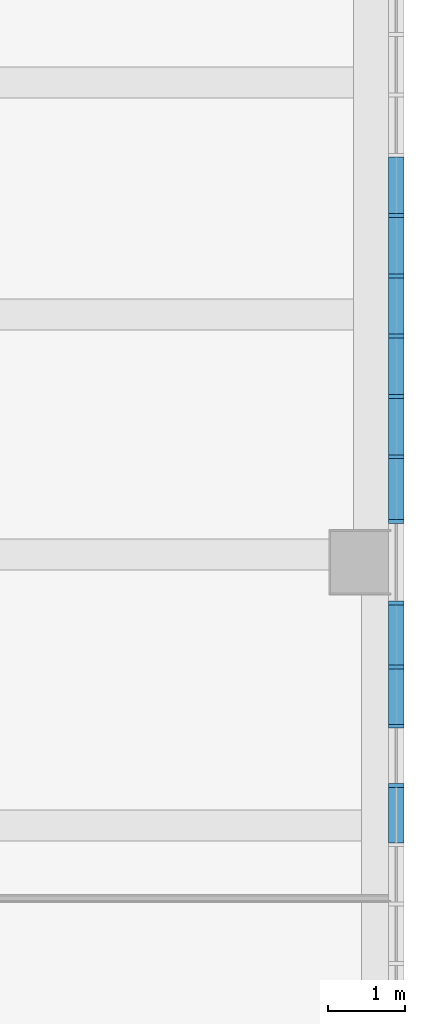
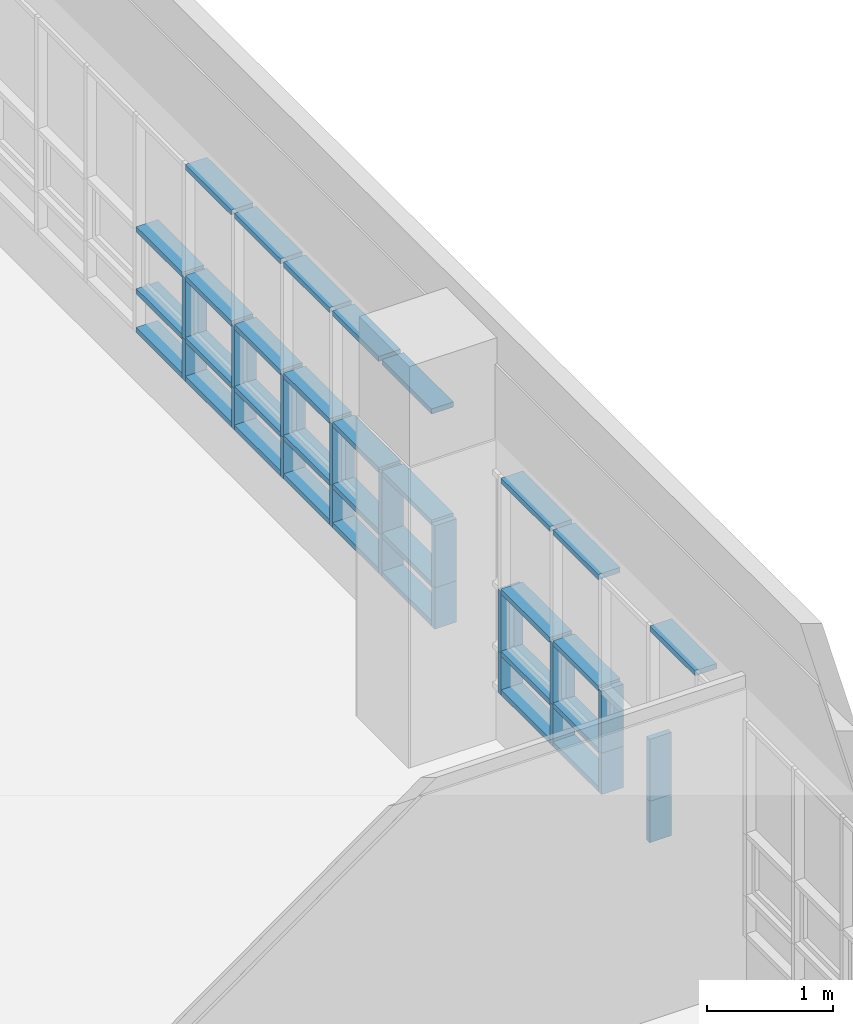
# One storey, part 21 of 81: 52 members, 1 element without a shape of its own.
"""IFC2X3 building model written with IfcOpenShell, lengths in millimetres."""

from ifc_helpers import new_model, entity, si_unit, converted_unit, derived_unit, direction, frame, origin, origin_2d_with_axis, place, context, subcontext, project, spatial, rectangle, extrude, source, transform, mapped, material, type_object, type_shapes, element, aggregate, save


model = new_model("IFC2X3")

# Units and contexts
model_context = context("Model", 3, precision=0.01, world=origin(), true_north=direction((6.123031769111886e-17, 1.0)))
body_context = subcontext(model_context, "Body", "Model", "MODEL_VIEW")
ifc_project = project(units=[si_unit("LENGTHUNIT", "METRE", prefix="MILLI"), si_unit("AREAUNIT", "SQUARE_METRE"), si_unit("VOLUMEUNIT", "CUBIC_METRE"), converted_unit("PLANEANGLEUNIT", "DEGREE", entity("IfcRatioMeasure", 0.017453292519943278), si_unit("PLANEANGLEUNIT", "RADIAN"), dimensions=[0, 0, 0, 0, 0, 0, 0]), si_unit("MASSUNIT", "GRAM", prefix="KILO"), derived_unit("MASSDENSITYUNIT", [(si_unit("MASSUNIT", "GRAM", prefix="KILO"), 1), (si_unit("LENGTHUNIT", "METRE"), -3)]), derived_unit("MOMENTOFINERTIAUNIT", [(si_unit("LENGTHUNIT", "METRE"), 4)]), si_unit("TIMEUNIT", "SECOND"), si_unit("FREQUENCYUNIT", "HERTZ"), si_unit("THERMODYNAMICTEMPERATUREUNIT", "DEGREE_CELSIUS"), derived_unit("THERMALTRANSMITTANCEUNIT", [(si_unit("MASSUNIT", "GRAM", prefix="KILO"), 1), (si_unit("THERMODYNAMICTEMPERATUREUNIT", "KELVIN"), -1), (si_unit("TIMEUNIT", "SECOND"), -3)]), derived_unit("VOLUMETRICFLOWRATEUNIT", [(si_unit("LENGTHUNIT", "METRE"), 3), (si_unit("TIMEUNIT", "SECOND"), -1)]), derived_unit("MASSFLOWRATEUNIT", [(si_unit("MASSUNIT", "GRAM", prefix="KILO"), 1), (si_unit("TIMEUNIT", "SECOND"), -1)]), derived_unit("ROTATIONALFREQUENCYUNIT", [(si_unit("TIMEUNIT", "SECOND"), -1)]), si_unit("ELECTRICCURRENTUNIT", "AMPERE"), si_unit("ELECTRICVOLTAGEUNIT", "VOLT"), si_unit("POWERUNIT", "WATT"), si_unit("FORCEUNIT", "NEWTON", prefix="KILO"), si_unit("ILLUMINANCEUNIT", "LUX"), si_unit("LUMINOUSFLUXUNIT", "LUMEN"), si_unit("LUMINOUSINTENSITYUNIT", "CANDELA"), derived_unit("USERDEFINED", [(si_unit("MASSUNIT", "GRAM", prefix="KILO"), -1), (si_unit("LENGTHUNIT", "METRE"), -2), (si_unit("TIMEUNIT", "SECOND"), 3), (si_unit("LUMINOUSFLUXUNIT", "LUMEN"), 1)]), derived_unit("SOUNDPOWERUNIT", [(si_unit("MASSUNIT", "GRAM", prefix="KILO"), 1), (si_unit("LENGTHUNIT", "METRE"), 2), (si_unit("TIMEUNIT", "SECOND"), -3)]), derived_unit("SOUNDPRESSUREUNIT", [(si_unit("MASSUNIT", "GRAM", prefix="KILO"), 1), (si_unit("LENGTHUNIT", "METRE"), -1), (si_unit("TIMEUNIT", "SECOND"), -2)]), derived_unit("LINEARVELOCITYUNIT", [(si_unit("LENGTHUNIT", "METRE"), 1), (si_unit("TIMEUNIT", "SECOND"), -1)]), si_unit("PRESSUREUNIT", "PASCAL"), derived_unit("USERDEFINED", [(si_unit("LENGTHUNIT", "METRE"), -2), (si_unit("MASSUNIT", "GRAM", prefix="KILO"), 1), (si_unit("TIMEUNIT", "SECOND"), -2)]), derived_unit("LINEARFORCEUNIT", [(si_unit("MASSUNIT", "GRAM", prefix="KILO"), 1), (si_unit("LENGTHUNIT", "METRE"), 1), (si_unit("TIMEUNIT", "SECOND"), -2), (si_unit("LENGTHUNIT", "METRE"), -1)]), derived_unit("PLANARFORCEUNIT", [(si_unit("MASSUNIT", "GRAM", prefix="KILO"), 1), (si_unit("LENGTHUNIT", "METRE"), 1), (si_unit("TIMEUNIT", "SECOND"), -2), (si_unit("LENGTHUNIT", "METRE"), -2)])], contexts=[model_context])

# Site, building, storey
site_placement = place(None, frame((-14167.972527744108, -657.2125860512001, 0.0)))
site = spatial("IfcSite", under=ifc_project, at=site_placement, Name="Default", CompositionType="ELEMENT")
building_placement = place(site_placement, origin())
building = spatial("IfcBuilding", under=site, at=building_placement, Name="Sample Building", CompositionType="ELEMENT")
storey_placement = place(building_placement, frame((0.0, 0.0, 13400.0)))
storey = spatial("IfcBuildingStorey", under=building, at=storey_placement, Name="지상 4층", CompositionType="ELEMENT", Elevation=13400.00000000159)

# Curtain wall, members
curtain_wall_type = type_object("IfcCurtainWallType", Name="커튼월:CW112-스테인리스 스틸 커튼월", PredefinedType="NOTDEFINED")
curtain_wall_placement = place(storey_placement, frame((0.0, 0.0, -13400.0)))
curtain_wall = element("IfcCurtainWall", 1, at=curtain_wall_placement, inside=storey, type_object=curtain_wall_type, Name="커튼월:CW112-스테인리스 스틸 커튼월", ObjectType="커튼월:CW112-스테인리스 스틸 커튼월")
ifc_material = material(Name="<Unnamed>")
member_type_1 = type_object("IfcMemberType", Name="직사각형 멀리언:CW200-직사각형 멀리언 50x200mm", PredefinedType="MULLION", material=ifc_material)
shared_shape_1 = source(origin(), body_context, "Body", "SweptSolid", [
    extrude(rectangle(XDim=200.0, YDim=50.0, at=origin_2d_with_axis()), frame((0.0, 0.0, -600.0), z_axis=(0.0, 0.0, 1.0), x_axis=(0.0, -1.0, 0.0)), (0.0, 0.0, 1.0), 600.0),
])
type_shapes(member_type_1, [shared_shape_1])
member_1_placement = place(curtain_wall_placement, frame((51517.96382893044, 18605.71229514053, 14400.0), z_axis=(0.0, 0.0, -1.0), x_axis=(0.0, -1.0, 0.0)))
member_1 = element("IfcMember", 2, at=member_1_placement, type_object=member_type_1, material=ifc_material, Name="직사각형 멀리언:CW200-직사각형 멀리언 50x200mm", ObjectType="직사각형 멀리언:CW200-직사각형 멀리언 50x200mm", context=body_context, shape_type="MappedRepresentation", body=[
    mapped(shared_shape_1, transform((0.0, 0.0, 0.0), scale=1.0)),
])
member_type_2 = type_object("IfcMemberType", Name="직사각형 멀리언:CW200-직사각형 멀리언 50x200mm", PredefinedType="MULLION", material=ifc_material)
shared_shape_2 = source(origin(), body_context, "Body", "SweptSolid", [
    extrude(rectangle(XDim=200.0, YDim=50.0, at=origin_2d_with_axis()), frame((0.0, 0.0, -600.0), z_axis=(0.0, 0.0, 1.0), x_axis=(0.0, -1.0, 0.0)), (0.0, 0.0, 1.0), 599.9999999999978),
])
type_shapes(member_type_2, [shared_shape_2])
member_2_placement = place(curtain_wall_placement, frame((51517.96382893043, 24436.712295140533, 14400.0), z_axis=(0.0, 0.0, -1.0), x_axis=(0.0, -1.0, 0.0)))
member_2 = element("IfcMember", 3, at=member_2_placement, type_object=member_type_2, material=ifc_material, Name="직사각형 멀리언:CW200-직사각형 멀리언 50x200mm", ObjectType="직사각형 멀리언:CW200-직사각형 멀리언 50x200mm", context=body_context, shape_type="MappedRepresentation", body=[
    mapped(shared_shape_2, transform((0.0, 0.0, 0.0), scale=1.0)),
])
member_3_placement = place(curtain_wall_placement, frame((51517.963828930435, 23657.71229514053, 14400.0), z_axis=(0.0, 0.0, -1.0), x_axis=(0.0, -1.0, 0.0)))
member_3 = element("IfcMember", 4, at=member_3_placement, type_object=member_type_2, material=ifc_material, Name="직사각형 멀리언:CW200-직사각형 멀리언 50x200mm", ObjectType="직사각형 멀리언:CW200-직사각형 멀리언 50x200mm", context=body_context, shape_type="MappedRepresentation", body=[
    mapped(shared_shape_2, transform((0.0, 0.0, 0.0), scale=1.0)),
])
member_4_placement = place(curtain_wall_placement, frame((51517.963828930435, 22878.71229514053, 14400.0), z_axis=(0.0, 0.0, -1.0), x_axis=(0.0, -1.0, 0.0)))
member_4 = element("IfcMember", 5, at=member_4_placement, type_object=member_type_2, material=ifc_material, Name="직사각형 멀리언:CW200-직사각형 멀리언 50x200mm", ObjectType="직사각형 멀리언:CW200-직사각형 멀리언 50x200mm", context=body_context, shape_type="MappedRepresentation", body=[
    mapped(shared_shape_2, transform((0.0, 0.0, 0.0), scale=1.0)),
])
member_5_placement = place(curtain_wall_placement, frame((51517.963828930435, 22099.71229514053, 14400.0), z_axis=(0.0, 0.0, -1.0), x_axis=(0.0, -1.0, 0.0)))
member_5 = element("IfcMember", 6, at=member_5_placement, type_object=member_type_2, material=ifc_material, Name="직사각형 멀리언:CW200-직사각형 멀리언 50x200mm", ObjectType="직사각형 멀리언:CW200-직사각형 멀리언 50x200mm", context=body_context, shape_type="MappedRepresentation", body=[
    mapped(shared_shape_2, transform((0.0, 0.0, 0.0), scale=1.0)),
])
member_6_placement = place(curtain_wall_placement, frame((51517.963828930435, 21320.71229514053, 14400.0), z_axis=(0.0, 0.0, -1.0), x_axis=(0.0, -1.0, 0.0)))
member_6 = element("IfcMember", 7, at=member_6_placement, type_object=member_type_2, material=ifc_material, Name="직사각형 멀리언:CW200-직사각형 멀리언 50x200mm", ObjectType="직사각형 멀리언:CW200-직사각형 멀리언 50x200mm", context=body_context, shape_type="MappedRepresentation", body=[
    mapped(shared_shape_2, transform((0.0, 0.0, 0.0), scale=1.0)),
])
member_7_placement = place(curtain_wall_placement, frame((51517.963828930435, 20481.71229514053, 14400.0), z_axis=(0.0, 0.0, -1.0), x_axis=(0.0, -1.0, 0.0)))
member_7 = element("IfcMember", 8, at=member_7_placement, type_object=member_type_2, material=ifc_material, Name="직사각형 멀리언:CW200-직사각형 멀리언 50x200mm", ObjectType="직사각형 멀리언:CW200-직사각형 멀리언 50x200mm", context=body_context, shape_type="MappedRepresentation", body=[
    mapped(shared_shape_2, transform((0.0, 0.0, 0.0), scale=1.0)),
])
member_8_placement = place(curtain_wall_placement, frame((51517.96382893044, 17839.71229514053, 14400.0), z_axis=(0.0, 0.0, -1.0), x_axis=(0.0, -1.0, 0.0)))
member_8 = element("IfcMember", 9, at=member_8_placement, type_object=member_type_2, material=ifc_material, Name="직사각형 멀리언:CW200-직사각형 멀리언 50x200mm", ObjectType="직사각형 멀리언:CW200-직사각형 멀리언 50x200mm", context=body_context, shape_type="MappedRepresentation", body=[
    mapped(shared_shape_2, transform((0.0, 0.0, 0.0), scale=1.0)),
])
member_9_placement = place(curtain_wall_placement, frame((51517.963828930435, 19431.71229514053, 14400.0), z_axis=(0.0, 0.0, -1.0), x_axis=(0.0, -1.0, 0.0)))
member_9 = element("IfcMember", 10, at=member_9_placement, type_object=member_type_2, material=ifc_material, Name="직사각형 멀리언:CW200-직사각형 멀리언 50x200mm", ObjectType="직사각형 멀리언:CW200-직사각형 멀리언 50x200mm", context=body_context, shape_type="MappedRepresentation", body=[
    mapped(shared_shape_2, transform((0.0, 0.0, 0.0), scale=1.0)),
])
member_10_placement = place(curtain_wall_placement, frame((51517.96382893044, 17073.71229514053, 14400.0), z_axis=(0.0, 0.0, -1.0), x_axis=(0.0, -1.0, 0.0)))
member_10 = element("IfcMember", 11, at=member_10_placement, type_object=member_type_2, material=ifc_material, Name="직사각형 멀리언:CW200-직사각형 멀리언 50x200mm", ObjectType="직사각형 멀리언:CW200-직사각형 멀리언 50x200mm", context=body_context, shape_type="MappedRepresentation", body=[
    mapped(shared_shape_2, transform((0.0, 0.0, 0.0), scale=1.0)),
])
member_type_3 = type_object("IfcMemberType", Name="직사각형 멀리언:CW200-직사각형 멀리언 50x200mm", PredefinedType="MULLION", material=ifc_material)
shared_shape_3 = source(origin(), body_context, "Body", "SweptSolid", [
    extrude(rectangle(XDim=200.0, YDim=50.0, at=origin_2d_with_axis()), frame((-25.0, 0.0, -729.0), z_axis=(0.0, 0.0, 1.0), x_axis=(0.0, -1.0, 0.0)), (0.0, 0.0, 1.0), 729.000000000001),
])
type_shapes(member_type_3, [shared_shape_3])
member_11_placement = place(curtain_wall_placement, frame((51517.96382893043, 25190.712295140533, 14000.0), z_axis=(0.0, 1.0, 0.0), x_axis=(0.0, 0.0, -1.0)))
member_11 = element("IfcMember", 12, at=member_11_placement, type_object=member_type_3, material=ifc_material, Name="직사각형 멀리언:CW200-직사각형 멀리언 50x200mm", ObjectType="직사각형 멀리언:CW200-직사각형 멀리언 50x200mm", context=body_context, shape_type="MappedRepresentation", body=[
    mapped(shared_shape_3, transform((0.0, 0.0, 0.0), scale=1.0)),
])
member_12_placement = place(curtain_wall_placement, frame((51517.96382893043, 24411.712295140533, 14000.0), z_axis=(0.0, 1.0, 0.0), x_axis=(0.0, 0.0, -1.0)))
member_12 = element("IfcMember", 13, at=member_12_placement, type_object=member_type_3, material=ifc_material, Name="직사각형 멀리언:CW200-직사각형 멀리언 50x200mm", ObjectType="직사각형 멀리언:CW200-직사각형 멀리언 50x200mm", context=body_context, shape_type="MappedRepresentation", body=[
    mapped(shared_shape_3, transform((0.0, 0.0, 0.0), scale=1.0)),
])
member_13_placement = place(curtain_wall_placement, frame((51517.963828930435, 23632.712295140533, 14000.0), z_axis=(0.0, 1.0, 0.0), x_axis=(0.0, 0.0, -1.0)))
member_13 = element("IfcMember", 14, at=member_13_placement, type_object=member_type_3, material=ifc_material, Name="직사각형 멀리언:CW200-직사각형 멀리언 50x200mm", ObjectType="직사각형 멀리언:CW200-직사각형 멀리언 50x200mm", context=body_context, shape_type="MappedRepresentation", body=[
    mapped(shared_shape_3, transform((0.0, 0.0, 0.0), scale=1.0)),
])
member_14_placement = place(curtain_wall_placement, frame((51517.963828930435, 22853.712295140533, 14000.0), z_axis=(0.0, 1.0, 0.0), x_axis=(0.0, 0.0, -1.0)))
member_14 = element("IfcMember", 15, at=member_14_placement, type_object=member_type_3, material=ifc_material, Name="직사각형 멀리언:CW200-직사각형 멀리언 50x200mm", ObjectType="직사각형 멀리언:CW200-직사각형 멀리언 50x200mm", context=body_context, shape_type="MappedRepresentation", body=[
    mapped(shared_shape_3, transform((0.0, 0.0, 0.0), scale=1.0)),
])
member_15_placement = place(curtain_wall_placement, frame((51517.963828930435, 22074.712295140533, 14000.0), z_axis=(0.0, 1.0, 0.0), x_axis=(0.0, 0.0, -1.0)))
member_15 = element("IfcMember", 16, at=member_15_placement, type_object=member_type_3, material=ifc_material, Name="직사각형 멀리언:CW200-직사각형 멀리언 50x200mm", ObjectType="직사각형 멀리언:CW200-직사각형 멀리언 50x200mm", context=body_context, shape_type="MappedRepresentation", body=[
    mapped(shared_shape_3, transform((0.0, 0.0, 0.0), scale=1.0)),
])
member_type_4 = type_object("IfcMemberType", Name="직사각형 멀리언:CW200-직사각형 멀리언 50x200mm", PredefinedType="MULLION", material=ifc_material)
shared_shape_4 = source(origin(), body_context, "Body", "SweptSolid", [
    extrude(rectangle(XDim=200.0, YDim=50.0, at=origin_2d_with_axis()), frame((0.0, 0.0, -729.0), z_axis=(0.0, 0.0, 1.0), x_axis=(0.0, -1.0, 0.0)), (0.0, 0.0, 1.0), 728.9999999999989),
])
type_shapes(member_type_4, [shared_shape_4])
member_16_placement = place(curtain_wall_placement, frame((51517.96382893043, 24461.71229514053, 14400.0), z_axis=(0.0, -1.0, 0.0), x_axis=(0.0, 0.0, 1.0)))
member_16 = element("IfcMember", 17, at=member_16_placement, type_object=member_type_4, material=ifc_material, Name="직사각형 멀리언:CW200-직사각형 멀리언 50x200mm", ObjectType="직사각형 멀리언:CW200-직사각형 멀리언 50x200mm", context=body_context, shape_type="MappedRepresentation", body=[
    mapped(shared_shape_4, transform((0.0, 0.0, 0.0), scale=1.0)),
])
member_17_placement = place(curtain_wall_placement, frame((51517.96382893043, 24461.71229514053, 15000.0), z_axis=(0.0, -1.0, 0.0), x_axis=(0.0, 0.0, 1.0)))
member_17 = element("IfcMember", 18, at=member_17_placement, type_object=member_type_4, material=ifc_material, Name="직사각형 멀리언:CW200-직사각형 멀리언 50x200mm", ObjectType="직사각형 멀리언:CW200-직사각형 멀리언 50x200mm", context=body_context, shape_type="MappedRepresentation", body=[
    mapped(shared_shape_4, transform((0.0, 0.0, 0.0), scale=1.0)),
])
member_18_placement = place(curtain_wall_placement, frame((51517.963828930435, 23682.71229514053, 14400.0), z_axis=(0.0, -1.0, 0.0), x_axis=(0.0, 0.0, 1.0)))
member_18 = element("IfcMember", 19, at=member_18_placement, type_object=member_type_4, material=ifc_material, Name="직사각형 멀리언:CW200-직사각형 멀리언 50x200mm", ObjectType="직사각형 멀리언:CW200-직사각형 멀리언 50x200mm", context=body_context, shape_type="MappedRepresentation", body=[
    mapped(shared_shape_4, transform((0.0, 0.0, 0.0), scale=1.0)),
])
member_19_placement = place(curtain_wall_placement, frame((51517.963828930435, 23682.71229514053, 15000.0), z_axis=(0.0, -1.0, 0.0), x_axis=(0.0, 0.0, 1.0)))
member_19 = element("IfcMember", 20, at=member_19_placement, type_object=member_type_4, material=ifc_material, Name="직사각형 멀리언:CW200-직사각형 멀리언 50x200mm", ObjectType="직사각형 멀리언:CW200-직사각형 멀리언 50x200mm", context=body_context, shape_type="MappedRepresentation", body=[
    mapped(shared_shape_4, transform((0.0, 0.0, 0.0), scale=1.0)),
])
member_20_placement = place(curtain_wall_placement, frame((51517.963828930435, 22903.71229514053, 14400.0), z_axis=(0.0, -1.0, 0.0), x_axis=(0.0, 0.0, 1.0)))
member_20 = element("IfcMember", 21, at=member_20_placement, type_object=member_type_4, material=ifc_material, Name="직사각형 멀리언:CW200-직사각형 멀리언 50x200mm", ObjectType="직사각형 멀리언:CW200-직사각형 멀리언 50x200mm", context=body_context, shape_type="MappedRepresentation", body=[
    mapped(shared_shape_4, transform((0.0, 0.0, 0.0), scale=1.0)),
])
member_21_placement = place(curtain_wall_placement, frame((51517.963828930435, 22903.71229514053, 15000.0), z_axis=(0.0, -1.0, 0.0), x_axis=(0.0, 0.0, 1.0)))
member_21 = element("IfcMember", 22, at=member_21_placement, type_object=member_type_4, material=ifc_material, Name="직사각형 멀리언:CW200-직사각형 멀리언 50x200mm", ObjectType="직사각형 멀리언:CW200-직사각형 멀리언 50x200mm", context=body_context, shape_type="MappedRepresentation", body=[
    mapped(shared_shape_4, transform((0.0, 0.0, 0.0), scale=1.0)),
])
member_22_placement = place(curtain_wall_placement, frame((51517.963828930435, 22124.71229514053, 14400.0), z_axis=(0.0, -1.0, 0.0), x_axis=(0.0, 0.0, 1.0)))
member_22 = element("IfcMember", 23, at=member_22_placement, type_object=member_type_4, material=ifc_material, Name="직사각형 멀리언:CW200-직사각형 멀리언 50x200mm", ObjectType="직사각형 멀리언:CW200-직사각형 멀리언 50x200mm", context=body_context, shape_type="MappedRepresentation", body=[
    mapped(shared_shape_4, transform((0.0, 0.0, 0.0), scale=1.0)),
])
member_23_placement = place(curtain_wall_placement, frame((51517.963828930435, 22124.71229514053, 15000.0), z_axis=(0.0, -1.0, 0.0), x_axis=(0.0, 0.0, 1.0)))
member_23 = element("IfcMember", 24, at=member_23_placement, type_object=member_type_4, material=ifc_material, Name="직사각형 멀리언:CW200-직사각형 멀리언 50x200mm", ObjectType="직사각형 멀리언:CW200-직사각형 멀리언 50x200mm", context=body_context, shape_type="MappedRepresentation", body=[
    mapped(shared_shape_4, transform((0.0, 0.0, 0.0), scale=1.0)),
])
member_24_placement = place(curtain_wall_placement, frame((51517.963828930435, 21345.71229514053, 14400.0), z_axis=(0.0, -1.0, 0.0), x_axis=(0.0, 0.0, 1.0)))
member_24 = element("IfcMember", 25, at=member_24_placement, type_object=member_type_4, material=ifc_material, Name="직사각형 멀리언:CW200-직사각형 멀리언 50x200mm", ObjectType="직사각형 멀리언:CW200-직사각형 멀리언 50x200mm", context=body_context, shape_type="MappedRepresentation", body=[
    mapped(shared_shape_4, transform((0.0, 0.0, 0.0), scale=1.0)),
])
member_25_placement = place(curtain_wall_placement, frame((51517.963828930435, 21345.71229514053, 15000.0), z_axis=(0.0, -1.0, 0.0), x_axis=(0.0, 0.0, 1.0)))
member_25 = element("IfcMember", 26, at=member_25_placement, type_object=member_type_4, material=ifc_material, Name="직사각형 멀리언:CW200-직사각형 멀리언 50x200mm", ObjectType="직사각형 멀리언:CW200-직사각형 멀리언 50x200mm", context=body_context, shape_type="MappedRepresentation", body=[
    mapped(shared_shape_4, transform((0.0, 0.0, 0.0), scale=1.0)),
])
member_type_5 = type_object("IfcMemberType", Name="직사각형 멀리언:CW200-직사각형 멀리언 50x200mm", PredefinedType="MULLION", material=ifc_material)
shared_shape_5 = source(origin(), body_context, "Body", "SweptSolid", [
    extrude(rectangle(XDim=200.0, YDim=50.0, at=origin_2d_with_axis()), frame((-25.0, 0.0, -729.0), z_axis=(0.0, 0.0, 1.0), x_axis=(0.0, -1.0, 0.0)), (0.0, 0.0, 1.0), 728.9999999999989),
])
type_shapes(member_type_5, [shared_shape_5])
member_26_placement = place(curtain_wall_placement, frame((51517.963828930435, 23682.712295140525, 16100.0), z_axis=(0.0, -1.0, 0.0), x_axis=(0.0, 0.0, 1.0)))
member_26 = element("IfcMember", 27, at=member_26_placement, type_object=member_type_5, material=ifc_material, Name="직사각형 멀리언:CW200-직사각형 멀리언 50x200mm", ObjectType="직사각형 멀리언:CW200-직사각형 멀리언 50x200mm", context=body_context, shape_type="MappedRepresentation", body=[
    mapped(shared_shape_5, transform((0.0, 0.0, 0.0), scale=1.0)),
])
member_27_placement = place(curtain_wall_placement, frame((51517.963828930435, 22903.71229514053, 16100.0), z_axis=(0.0, -1.0, 0.0), x_axis=(0.0, 0.0, 1.0)))
member_27 = element("IfcMember", 28, at=member_27_placement, type_object=member_type_5, material=ifc_material, Name="직사각형 멀리언:CW200-직사각형 멀리언 50x200mm", ObjectType="직사각형 멀리언:CW200-직사각형 멀리언 50x200mm", context=body_context, shape_type="MappedRepresentation", body=[
    mapped(shared_shape_5, transform((0.0, 0.0, 0.0), scale=1.0)),
])
member_28_placement = place(curtain_wall_placement, frame((51517.963828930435, 22124.712295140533, 16100.0), z_axis=(0.0, -1.0, 0.0), x_axis=(0.0, 0.0, 1.0)))
member_28 = element("IfcMember", 29, at=member_28_placement, type_object=member_type_5, material=ifc_material, Name="직사각형 멀리언:CW200-직사각형 멀리언 50x200mm", ObjectType="직사각형 멀리언:CW200-직사각형 멀리언 50x200mm", context=body_context, shape_type="MappedRepresentation", body=[
    mapped(shared_shape_5, transform((0.0, 0.0, 0.0), scale=1.0)),
])
member_29_placement = place(curtain_wall_placement, frame((51517.963828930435, 21345.71229514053, 16100.0), z_axis=(0.0, -1.0, 0.0), x_axis=(0.0, 0.0, 1.0)))
member_29 = element("IfcMember", 30, at=member_29_placement, type_object=member_type_5, material=ifc_material, Name="직사각형 멀리언:CW200-직사각형 멀리언 50x200mm", ObjectType="직사각형 멀리언:CW200-직사각형 멀리언 50x200mm", context=body_context, shape_type="MappedRepresentation", body=[
    mapped(shared_shape_5, transform((0.0, 0.0, 0.0), scale=1.0)),
])
member_type_6 = type_object("IfcMemberType", Name="직사각형 멀리언:CW200-직사각형 멀리언 50x200mm", PredefinedType="MULLION", material=ifc_material)
shared_shape_6 = source(origin(), body_context, "Body", "SweptSolid", [
    extrude(rectangle(XDim=200.0, YDim=50.0, at=origin_2d_with_axis()), frame((-25.0, 0.0, -789.0), z_axis=(0.0, 0.0, 1.0), x_axis=(0.0, -1.0, 0.0)), (0.0, 0.0, 1.0), 789.0000000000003),
])
type_shapes(member_type_6, [shared_shape_6])
member_30_placement = place(curtain_wall_placement, frame((51517.963828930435, 21295.71229514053, 14000.0), z_axis=(0.0, 1.0, 0.0), x_axis=(0.0, 0.0, -1.0)))
member_30 = element("IfcMember", 31, at=member_30_placement, type_object=member_type_6, material=ifc_material, Name="직사각형 멀리언:CW200-직사각형 멀리언 50x200mm", ObjectType="직사각형 멀리언:CW200-직사각형 멀리언 50x200mm", context=body_context, shape_type="MappedRepresentation", body=[
    mapped(shared_shape_6, transform((0.0, 0.0, 0.0), scale=1.0)),
])
member_type_7 = type_object("IfcMemberType", Name="직사각형 멀리언:CW200-직사각형 멀리언 50x200mm", PredefinedType="MULLION", material=ifc_material)
shared_shape_7 = source(origin(), body_context, "Body", "SweptSolid", [
    extrude(rectangle(XDim=200.0, YDim=50.0, at=origin_2d_with_axis()), frame((0.0, 0.0, -789.0), z_axis=(0.0, 0.0, 1.0), x_axis=(0.0, -1.0, 0.0)), (0.0, 0.0, 1.0), 788.9999999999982),
])
type_shapes(member_type_7, [shared_shape_7])
member_31_placement = place(curtain_wall_placement, frame((51517.963828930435, 20506.71229514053, 14400.0), z_axis=(0.0, -1.0, 0.0), x_axis=(0.0, 0.0, 1.0)))
member_31 = element("IfcMember", 32, at=member_31_placement, type_object=member_type_7, material=ifc_material, Name="직사각형 멀리언:CW200-직사각형 멀리언 50x200mm", ObjectType="직사각형 멀리언:CW200-직사각형 멀리언 50x200mm", context=body_context, shape_type="MappedRepresentation", body=[
    mapped(shared_shape_7, transform((0.0, 0.0, 0.0), scale=1.0)),
])
member_32_placement = place(curtain_wall_placement, frame((51517.963828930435, 20506.71229514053, 15000.0), z_axis=(0.0, -1.0, 0.0), x_axis=(0.0, 0.0, 1.0)))
member_32 = element("IfcMember", 33, at=member_32_placement, type_object=member_type_7, material=ifc_material, Name="직사각형 멀리언:CW200-직사각형 멀리언 50x200mm", ObjectType="직사각형 멀리언:CW200-직사각형 멀리언 50x200mm", context=body_context, shape_type="MappedRepresentation", body=[
    mapped(shared_shape_7, transform((0.0, 0.0, 0.0), scale=1.0)),
])
member_type_8 = type_object("IfcMemberType", Name="직사각형 멀리언:CW200-직사각형 멀리언 50x200mm", PredefinedType="MULLION", material=ifc_material)
shared_shape_8 = source(origin(), body_context, "Body", "SweptSolid", [
    extrude(rectangle(XDim=200.0, YDim=50.0, at=origin_2d_with_axis()), frame((-25.0, 0.0, -789.0), z_axis=(0.0, 0.0, 1.0), x_axis=(0.0, -1.0, 0.0)), (0.0, 0.0, 1.0), 788.9999999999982),
])
type_shapes(member_type_8, [shared_shape_8])
member_33_placement = place(curtain_wall_placement, frame((51517.963828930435, 20506.71229514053, 16100.0), z_axis=(0.0, -1.0, 0.0), x_axis=(0.0, 0.0, 1.0)))
member_33 = element("IfcMember", 34, at=member_33_placement, type_object=member_type_8, material=ifc_material, Name="직사각형 멀리언:CW200-직사각형 멀리언 50x200mm", ObjectType="직사각형 멀리언:CW200-직사각형 멀리언 50x200mm", context=body_context, shape_type="MappedRepresentation", body=[
    mapped(shared_shape_8, transform((0.0, 0.0, 0.0), scale=1.0)),
])
member_type_9 = type_object("IfcMemberType", Name="직사각형 멀리언:CW200-직사각형 멀리언 50x200mm", PredefinedType="MULLION", material=ifc_material)
shared_shape_9 = source(origin(), body_context, "Body", "SweptSolid", [
    extrude(rectangle(XDim=200.0, YDim=50.0, at=origin_2d_with_axis()), frame((-25.0, 0.0, -716.0), z_axis=(0.0, 0.0, 1.0), x_axis=(0.0, -1.0, 0.0)), (0.0, 0.0, 1.0), 715.9999999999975),
])
type_shapes(member_type_9, [shared_shape_9])
member_34_placement = place(curtain_wall_placement, frame((51517.96382893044, 17864.71229514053, 16100.0), z_axis=(0.0, -1.0, 0.0), x_axis=(0.0, 0.0, 1.0)))
member_34 = element("IfcMember", 35, at=member_34_placement, type_object=member_type_9, material=ifc_material, Name="직사각형 멀리언:CW200-직사각형 멀리언 50x200mm", ObjectType="직사각형 멀리언:CW200-직사각형 멀리언 50x200mm", context=body_context, shape_type="MappedRepresentation", body=[
    mapped(shared_shape_9, transform((0.0, 0.0, 0.0), scale=1.0)),
])
member_35_placement = place(curtain_wall_placement, frame((51517.96382893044, 16332.71229514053, 16100.0), z_axis=(0.0, -1.0, 0.0), x_axis=(0.0, 0.0, 1.0)))
member_35 = element("IfcMember", 36, at=member_35_placement, type_object=member_type_9, material=ifc_material, Name="직사각형 멀리언:CW200-직사각형 멀리언 50x200mm", ObjectType="직사각형 멀리언:CW200-직사각형 멀리언 50x200mm", context=body_context, shape_type="MappedRepresentation", body=[
    mapped(shared_shape_9, transform((0.0, 0.0, 0.0), scale=1.0)),
])
member_type_10 = type_object("IfcMemberType", Name="직사각형 멀리언:CW200-직사각형 멀리언 50x200mm", PredefinedType="MULLION", material=ifc_material)
shared_shape_10 = source(origin(), body_context, "Body", "SweptSolid", [
    extrude(rectangle(XDim=200.0, YDim=50.0, at=origin_2d_with_axis()), frame((-25.0, 0.0, -776.0), z_axis=(0.0, 0.0, 1.0), x_axis=(0.0, -1.0, 0.0)), (0.0, 0.0, 1.0), 776.0000000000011),
])
type_shapes(member_type_10, [shared_shape_10])
member_36_placement = place(curtain_wall_placement, frame((51517.963828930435, 19406.712295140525, 14000.0), z_axis=(0.0, 1.0, 0.0), x_axis=(0.0, 0.0, -1.0)))
member_36 = element("IfcMember", 37, at=member_36_placement, type_object=member_type_10, material=ifc_material, Name="직사각형 멀리언:CW200-직사각형 멀리언 50x200mm", ObjectType="직사각형 멀리언:CW200-직사각형 멀리언 50x200mm", context=body_context, shape_type="MappedRepresentation", body=[
    mapped(shared_shape_10, transform((0.0, 0.0, 0.0), scale=1.0)),
])
member_type_11 = type_object("IfcMemberType", Name="직사각형 멀리언:CW200-직사각형 멀리언 50x200mm", PredefinedType="MULLION", material=ifc_material)
shared_shape_11 = source(origin(), body_context, "Body", "SweptSolid", [
    extrude(rectangle(XDim=200.0, YDim=50.0, at=origin_2d_with_axis()), frame((0.0, 0.0, -776.0), z_axis=(0.0, 0.0, 1.0), x_axis=(0.0, -1.0, 0.0)), (0.0, 0.0, 1.0), 775.999999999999),
])
type_shapes(member_type_11, [shared_shape_11])
member_37_placement = place(curtain_wall_placement, frame((51517.96382893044, 18630.71229514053, 14400.0), z_axis=(0.0, -1.0, 0.0), x_axis=(0.0, 0.0, 1.0)))
member_37 = element("IfcMember", 38, at=member_37_placement, type_object=member_type_11, material=ifc_material, Name="직사각형 멀리언:CW200-직사각형 멀리언 50x200mm", ObjectType="직사각형 멀리언:CW200-직사각형 멀리언 50x200mm", context=body_context, shape_type="MappedRepresentation", body=[
    mapped(shared_shape_11, transform((0.0, 0.0, 0.0), scale=1.0)),
])
member_38_placement = place(curtain_wall_placement, frame((51517.96382893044, 18630.71229514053, 15000.0), z_axis=(0.0, -1.0, 0.0), x_axis=(0.0, 0.0, 1.0)))
member_38 = element("IfcMember", 39, at=member_38_placement, type_object=member_type_11, material=ifc_material, Name="직사각형 멀리언:CW200-직사각형 멀리언 50x200mm", ObjectType="직사각형 멀리언:CW200-직사각형 멀리언 50x200mm", context=body_context, shape_type="MappedRepresentation", body=[
    mapped(shared_shape_11, transform((0.0, 0.0, 0.0), scale=1.0)),
])
member_type_12 = type_object("IfcMemberType", Name="직사각형 멀리언:CW200-직사각형 멀리언 50x200mm", PredefinedType="MULLION", material=ifc_material)
shared_shape_12 = source(origin(), body_context, "Body", "SweptSolid", [
    extrude(rectangle(XDim=200.0, YDim=50.0, at=origin_2d_with_axis()), frame((-25.0, 0.0, -716.0), z_axis=(0.0, 0.0, 1.0), x_axis=(0.0, -1.0, 0.0)), (0.0, 0.0, 1.0), 715.9999999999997),
])
type_shapes(member_type_12, [shared_shape_12])
member_39_placement = place(curtain_wall_placement, frame((51517.96382893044, 18580.712295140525, 14000.0), z_axis=(0.0, 1.0, 0.0), x_axis=(0.0, 0.0, -1.0)))
member_39 = element("IfcMember", 40, at=member_39_placement, type_object=member_type_12, material=ifc_material, Name="직사각형 멀리언:CW200-직사각형 멀리언 50x200mm", ObjectType="직사각형 멀리언:CW200-직사각형 멀리언 50x200mm", context=body_context, shape_type="MappedRepresentation", body=[
    mapped(shared_shape_12, transform((0.0, 0.0, 0.0), scale=1.0)),
])
member_type_13 = type_object("IfcMemberType", Name="직사각형 멀리언:CW200-직사각형 멀리언 50x200mm", PredefinedType="MULLION", material=ifc_material)
shared_shape_13 = source(origin(), body_context, "Body", "SweptSolid", [
    extrude(rectangle(XDim=200.0, YDim=50.0, at=origin_2d_with_axis()), frame((0.0, 0.0, -716.0), z_axis=(0.0, 0.0, 1.0), x_axis=(0.0, -1.0, 0.0)), (0.0, 0.0, 1.0), 715.9999999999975),
])
type_shapes(member_type_13, [shared_shape_13])
member_40_placement = place(curtain_wall_placement, frame((51517.96382893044, 17864.71229514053, 14400.0), z_axis=(0.0, -1.0, 0.0), x_axis=(0.0, 0.0, 1.0)))
member_40 = element("IfcMember", 41, at=member_40_placement, type_object=member_type_13, material=ifc_material, Name="직사각형 멀리언:CW200-직사각형 멀리언 50x200mm", ObjectType="직사각형 멀리언:CW200-직사각형 멀리언 50x200mm", context=body_context, shape_type="MappedRepresentation", body=[
    mapped(shared_shape_13, transform((0.0, 0.0, 0.0), scale=1.0)),
])
member_41_placement = place(curtain_wall_placement, frame((51517.96382893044, 17864.71229514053, 15000.0), z_axis=(0.0, -1.0, 0.0), x_axis=(0.0, 0.0, 1.0)))
member_41 = element("IfcMember", 42, at=member_41_placement, type_object=member_type_13, material=ifc_material, Name="직사각형 멀리언:CW200-직사각형 멀리언 50x200mm", ObjectType="직사각형 멀리언:CW200-직사각형 멀리언 50x200mm", context=body_context, shape_type="MappedRepresentation", body=[
    mapped(shared_shape_13, transform((0.0, 0.0, 0.0), scale=1.0)),
])
member_type_14 = type_object("IfcMemberType", Name="직사각형 멀리언:CW200-직사각형 멀리언 50x200mm", PredefinedType="MULLION", material=ifc_material)
shared_shape_14 = source(origin(), body_context, "Body", "SweptSolid", [
    extrude(rectangle(XDim=200.0, YDim=50.0, at=origin_2d_with_axis()), frame((-25.0, 0.0, -776.0), z_axis=(0.0, 0.0, 1.0), x_axis=(0.0, -1.0, 0.0)), (0.0, 0.0, 1.0), 775.999999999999),
])
type_shapes(member_type_14, [shared_shape_14])
member_42_placement = place(curtain_wall_placement, frame((51517.96382893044, 18630.71229514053, 16100.0), z_axis=(0.0, -1.0, 0.0), x_axis=(0.0, 0.0, 1.0)))
member_42 = element("IfcMember", 43, at=member_42_placement, type_object=member_type_14, material=ifc_material, Name="직사각형 멀리언:CW200-직사각형 멀리언 50x200mm", ObjectType="직사각형 멀리언:CW200-직사각형 멀리언 50x200mm", context=body_context, shape_type="MappedRepresentation", body=[
    mapped(shared_shape_14, transform((0.0, 0.0, 0.0), scale=1.0)),
])
member_type_15 = type_object("IfcMemberType", Name="직사각형 멀리언:CW200-직사각형 멀리언 50x200mm", PredefinedType="MULLION", material=ifc_material)
shared_shape_15 = source(origin(), body_context, "Body", "SweptSolid", [
    extrude(rectangle(XDim=200.0, YDim=50.0, at=origin_2d_with_axis()), frame((0.0, 0.0, -400.0), z_axis=(0.0, 0.0, 1.0), x_axis=(0.0, -1.0, 0.0)), (0.0, 0.0, 1.0), 399.9999999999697),
])
type_shapes(member_type_15, [shared_shape_15])
member_43_placement = place(curtain_wall_placement, frame((51517.96382893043, 24436.712295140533, 14000.0), z_axis=(0.0, 0.0, -1.0), x_axis=(0.0, -1.0, 0.0)))
member_43 = element("IfcMember", 44, at=member_43_placement, type_object=member_type_15, material=ifc_material, Name="직사각형 멀리언:CW200-직사각형 멀리언 50x200mm", ObjectType="직사각형 멀리언:CW200-직사각형 멀리언 50x200mm", context=body_context, shape_type="MappedRepresentation", body=[
    mapped(shared_shape_15, transform((0.0, 0.0, 0.0), scale=1.0)),
])
member_44_placement = place(curtain_wall_placement, frame((51517.963828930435, 23657.71229514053, 14000.0), z_axis=(0.0, 0.0, -1.0), x_axis=(0.0, -1.0, 0.0)))
member_44 = element("IfcMember", 45, at=member_44_placement, type_object=member_type_15, material=ifc_material, Name="직사각형 멀리언:CW200-직사각형 멀리언 50x200mm", ObjectType="직사각형 멀리언:CW200-직사각형 멀리언 50x200mm", context=body_context, shape_type="MappedRepresentation", body=[
    mapped(shared_shape_15, transform((0.0, 0.0, 0.0), scale=1.0)),
])
member_45_placement = place(curtain_wall_placement, frame((51517.963828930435, 22878.71229514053, 14000.0), z_axis=(0.0, 0.0, -1.0), x_axis=(0.0, -1.0, 0.0)))
member_45 = element("IfcMember", 46, at=member_45_placement, type_object=member_type_15, material=ifc_material, Name="직사각형 멀리언:CW200-직사각형 멀리언 50x200mm", ObjectType="직사각형 멀리언:CW200-직사각형 멀리언 50x200mm", context=body_context, shape_type="MappedRepresentation", body=[
    mapped(shared_shape_15, transform((0.0, 0.0, 0.0), scale=1.0)),
])
member_46_placement = place(curtain_wall_placement, frame((51517.963828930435, 22099.71229514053, 14000.0), z_axis=(0.0, 0.0, -1.0), x_axis=(0.0, -1.0, 0.0)))
member_46 = element("IfcMember", 47, at=member_46_placement, type_object=member_type_15, material=ifc_material, Name="직사각형 멀리언:CW200-직사각형 멀리언 50x200mm", ObjectType="직사각형 멀리언:CW200-직사각형 멀리언 50x200mm", context=body_context, shape_type="MappedRepresentation", body=[
    mapped(shared_shape_15, transform((0.0, 0.0, 0.0), scale=1.0)),
])
member_47_placement = place(curtain_wall_placement, frame((51517.963828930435, 21320.71229514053, 14000.0), z_axis=(0.0, 0.0, -1.0), x_axis=(0.0, -1.0, 0.0)))
member_47 = element("IfcMember", 48, at=member_47_placement, type_object=member_type_15, material=ifc_material, Name="직사각형 멀리언:CW200-직사각형 멀리언 50x200mm", ObjectType="직사각형 멀리언:CW200-직사각형 멀리언 50x200mm", context=body_context, shape_type="MappedRepresentation", body=[
    mapped(shared_shape_15, transform((0.0, 0.0, 0.0), scale=1.0)),
])
member_48_placement = place(curtain_wall_placement, frame((51517.963828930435, 20481.71229514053, 14000.0), z_axis=(0.0, 0.0, -1.0), x_axis=(0.0, -1.0, 0.0)))
member_48 = element("IfcMember", 49, at=member_48_placement, type_object=member_type_15, material=ifc_material, Name="직사각형 멀리언:CW200-직사각형 멀리언 50x200mm", ObjectType="직사각형 멀리언:CW200-직사각형 멀리언 50x200mm", context=body_context, shape_type="MappedRepresentation", body=[
    mapped(shared_shape_15, transform((0.0, 0.0, 0.0), scale=1.0)),
])
member_49_placement = place(curtain_wall_placement, frame((51517.96382893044, 17839.71229514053, 14000.0), z_axis=(0.0, 0.0, -1.0), x_axis=(0.0, -1.0, 0.0)))
member_49 = element("IfcMember", 50, at=member_49_placement, type_object=member_type_15, material=ifc_material, Name="직사각형 멀리언:CW200-직사각형 멀리언 50x200mm", ObjectType="직사각형 멀리언:CW200-직사각형 멀리언 50x200mm", context=body_context, shape_type="MappedRepresentation", body=[
    mapped(shared_shape_15, transform((0.0, 0.0, 0.0), scale=1.0)),
])
member_50_placement = place(curtain_wall_placement, frame((51517.963828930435, 19431.71229514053, 14000.0), z_axis=(0.0, 0.0, -1.0), x_axis=(0.0, -1.0, 0.0)))
member_50 = element("IfcMember", 51, at=member_50_placement, type_object=member_type_15, material=ifc_material, Name="직사각형 멀리언:CW200-직사각형 멀리언 50x200mm", ObjectType="직사각형 멀리언:CW200-직사각형 멀리언 50x200mm", context=body_context, shape_type="MappedRepresentation", body=[
    mapped(shared_shape_15, transform((0.0, 0.0, 0.0), scale=1.0)),
])
member_51_placement = place(curtain_wall_placement, frame((51517.96382893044, 17073.71229514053, 14000.0), z_axis=(0.0, 0.0, -1.0), x_axis=(0.0, -1.0, 0.0)))
member_51 = element("IfcMember", 52, at=member_51_placement, type_object=member_type_15, material=ifc_material, Name="직사각형 멀리언:CW200-직사각형 멀리언 50x200mm", ObjectType="직사각형 멀리언:CW200-직사각형 멀리언 50x200mm", context=body_context, shape_type="MappedRepresentation", body=[
    mapped(shared_shape_15, transform((0.0, 0.0, 0.0), scale=1.0)),
])
member_type_16 = type_object("IfcMemberType", Name="직사각형 멀리언:CW200-직사각형 멀리언 50x200mm", PredefinedType="MULLION", material=ifc_material)
shared_shape_16 = source(origin(), body_context, "Body", "SweptSolid", [
    extrude(rectangle(XDim=200.0, YDim=50.0, at=origin_2d_with_axis()), frame((0.0, 0.0, -400.0), z_axis=(0.0, 0.0, 1.0), x_axis=(0.0, -1.0, 0.0)), (0.0, 0.0, 1.0), 399.9999999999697),
])
type_shapes(member_type_16, [shared_shape_16])
member_52_placement = place(curtain_wall_placement, frame((51517.96382893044, 18605.712295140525, 14000.0), z_axis=(0.0, 0.0, -1.0), x_axis=(0.0, -1.0, 0.0)))
member_52 = element("IfcMember", 53, at=member_52_placement, type_object=member_type_16, material=ifc_material, Name="직사각형 멀리언:CW200-직사각형 멀리언 50x200mm", ObjectType="직사각형 멀리언:CW200-직사각형 멀리언 50x200mm", context=body_context, shape_type="MappedRepresentation", body=[
    mapped(shared_shape_16, transform((0.0, 0.0, 0.0), scale=1.0)),
])
aggregate(curtain_wall, [member_11, member_16, member_17, member_12, member_18, member_19, member_43, member_2, member_26, member_13, member_20, member_21, member_44, member_3, member_27, member_14, member_22, member_23, member_45, member_4, member_28, member_15, member_24, member_25, member_46, member_5, member_29, member_30, member_31, member_32, member_47, member_6, member_33, member_48, member_7, member_34, member_49, member_8, member_36, member_37, member_38, member_50, member_9, member_51, member_10, member_35, member_42, member_39, member_40, member_41, member_52, member_1])

save(model, "model.ifc")
